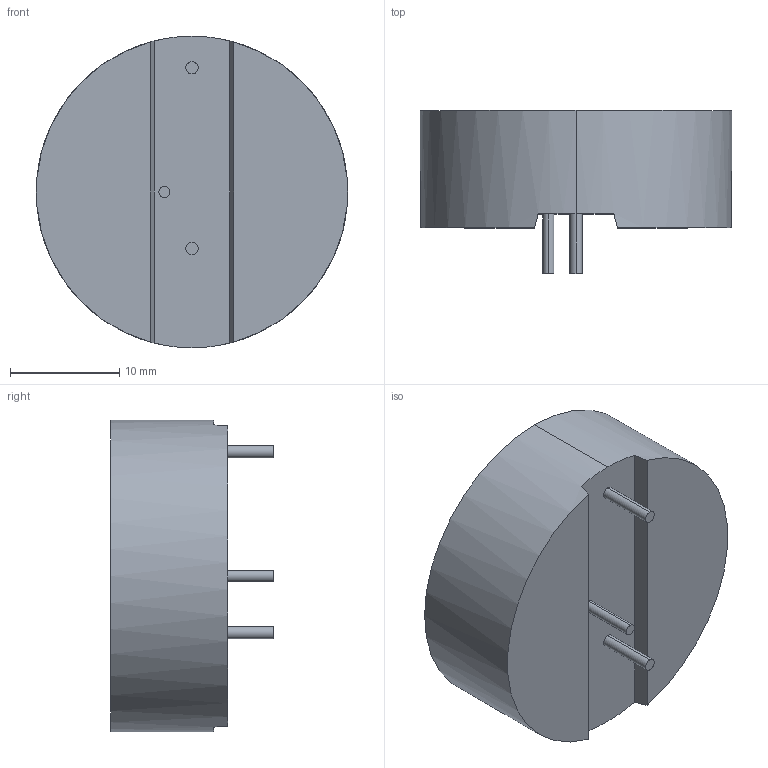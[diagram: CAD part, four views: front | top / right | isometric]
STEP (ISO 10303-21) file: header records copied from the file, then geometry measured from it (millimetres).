
FILE_DESCRIPTION (( 'STEP AP214' ), '1' );
FILE_NAME ('IHTH-1125KZ-5A 68uH.STEP', '2025-03-14T18:40:17', ( '' ), ( '' ), 'SwSTEP 2.0', 'SolidWorks 2024', '' );
FILE_SCHEMA (( 'AUTOMOTIVE_DESIGN' ));
Length unit declared in the file: inch
Products named in the file (1): IHTH-1125KZ-5A 68uH
Bounding box: 28.57 x 14.94 x 28.57 mm (x, y, z)
Volume: 6643.8 mm3; surface area: 2341.6 mm2
Topology: 1 solids, 1 shells, 201 faces, 519 edges, 346 vertices
Faces by surface type: plane 126, bspline 63, cylinder 12
Entity records: 9814 total; most frequent: CARTESIAN_POINT 5286, ORIENTED_EDGE 1038, DIRECTION 695, EDGE_CURVE 519, LINE 361, VECTOR 361, VERTEX_POINT 346, EDGE_LOOP 227
